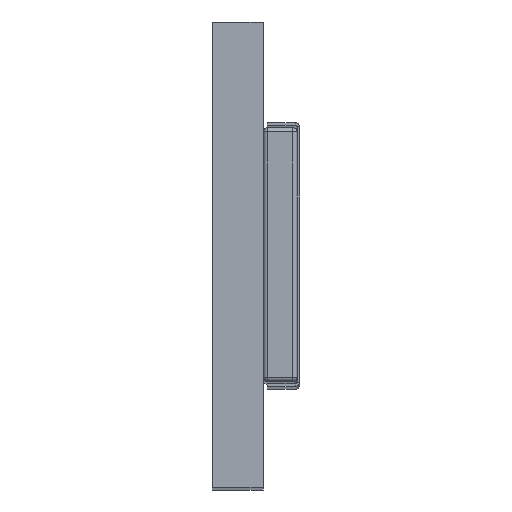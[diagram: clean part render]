
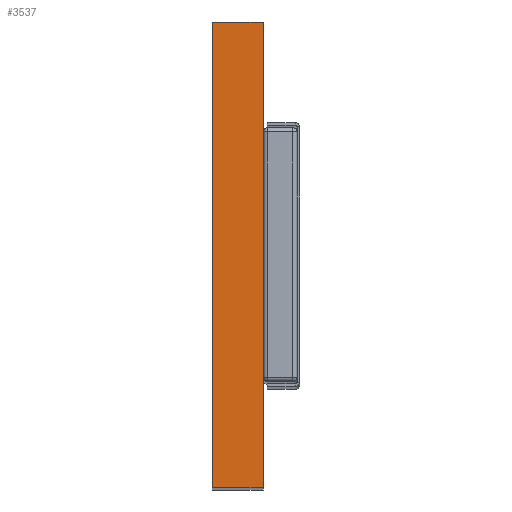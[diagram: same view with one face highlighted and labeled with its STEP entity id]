
A CAD part, top view. The second image highlights one B-rep face of the part: STEP entity #3537.
In plain terms, the highlighted planar face has unit normal (0, 0, 1).
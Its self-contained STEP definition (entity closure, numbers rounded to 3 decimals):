
#104 = ORIENTED_EDGE ( 'NONE', *, *, #1960, .T. ) ;
#111 = DIRECTION ( 'NONE',  ( 0., 1., 0. ) ) ;
#179 = VECTOR ( 'NONE', #2514, 1000. ) ;
#184 = CARTESIAN_POINT ( 'NONE',  ( 6., 55., 192. ) ) ;
#421 = VERTEX_POINT ( 'NONE', #1810 ) ;
#585 = VECTOR ( 'NONE', #1992, 1000. ) ;
#657 = EDGE_CURVE ( 'NONE', #2995, #3349, #1797, .T. ) ;
#876 = PLANE ( 'NONE',  #1243 ) ;
#913 = VERTEX_POINT ( 'NONE', #1680 ) ;
#1009 = VECTOR ( 'NONE', #111, 1000. ) ;
#1019 = VECTOR ( 'NONE', #3108, 1000. ) ;
#1079 = CARTESIAN_POINT ( 'NONE',  ( 0., 0., 192. ) ) ;
#1173 = CARTESIAN_POINT ( 'NONE',  ( 0., 0., 192. ) ) ;
#1243 = AXIS2_PLACEMENT_3D ( 'NONE', #1173, #1457, #3452 ) ;
#1273 = FACE_OUTER_BOUND ( 'NONE', #2881, .T. ) ;
#1457 = DIRECTION ( 'NONE',  ( 0., 0., -1. ) ) ;
#1520 = EDGE_CURVE ( 'NONE', #913, #2995, #2541, .T. ) ;
#1648 = ORIENTED_EDGE ( 'NONE', *, *, #1520, .T. ) ;
#1680 = CARTESIAN_POINT ( 'NONE',  ( 6., 0., 192. ) ) ;
#1713 = LINE ( 'NONE', #1079, #179 ) ;
#1714 = CARTESIAN_POINT ( 'NONE',  ( 0., 0., 192. ) ) ;
#1729 = ORIENTED_EDGE ( 'NONE', *, *, #2527, .T. ) ;
#1797 = LINE ( 'NONE', #3188, #1019 ) ;
#1810 = CARTESIAN_POINT ( 'NONE',  ( 0., 0., 192. ) ) ;
#1960 = EDGE_CURVE ( 'NONE', #3349, #421, #1713, .T. ) ;
#1992 = DIRECTION ( 'NONE',  ( 1., 0., 0. ) ) ;
#2126 = CARTESIAN_POINT ( 'NONE',  ( 6., 0., 192. ) ) ;
#2511 = CARTESIAN_POINT ( 'NONE',  ( 0., 55., 192. ) ) ;
#2514 = DIRECTION ( 'NONE',  ( 0., -1., 0. ) ) ;
#2527 = EDGE_CURVE ( 'NONE', #421, #913, #2595, .T. ) ;
#2541 = LINE ( 'NONE', #2126, #1009 ) ;
#2595 = LINE ( 'NONE', #1714, #585 ) ;
#2625 = ORIENTED_EDGE ( 'NONE', *, *, #657, .T. ) ;
#2881 = EDGE_LOOP ( 'NONE', ( #104, #1729, #1648, #2625 ) ) ;
#2995 = VERTEX_POINT ( 'NONE', #184 ) ;
#3108 = DIRECTION ( 'NONE',  ( -1., 0., 0. ) ) ;
#3188 = CARTESIAN_POINT ( 'NONE',  ( 0., 55., 192. ) ) ;
#3349 = VERTEX_POINT ( 'NONE', #2511 ) ;
#3452 = DIRECTION ( 'NONE',  ( -1., 0., 0. ) ) ;
#3537 = ADVANCED_FACE ( 'NONE', ( #1273 ), #876, .F. ) ;
